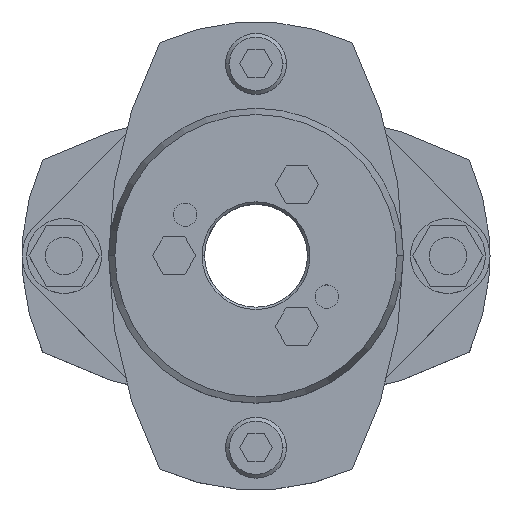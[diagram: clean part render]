
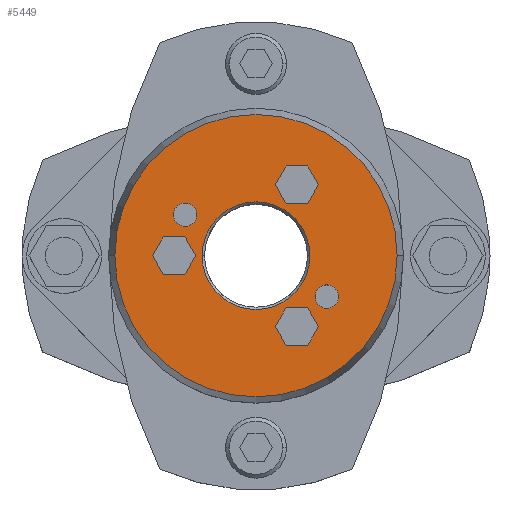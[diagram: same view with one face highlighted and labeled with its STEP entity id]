
A CAD part, top view. The second image highlights one B-rep face of the part: STEP entity #5449.
In plain terms, the highlighted planar face has unit normal (0, 0, 1).
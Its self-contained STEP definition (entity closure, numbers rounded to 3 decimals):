
#857=CARTESIAN_POINT('',(-11.5,0.,42.0));
#858=VERTEX_POINT('',#857);
#874=CARTESIAN_POINT('',(11.5,0.,42.0));
#875=VERTEX_POINT('',#874);
#882=CARTESIAN_POINT('',(0.,0.,42.0));
#883=DIRECTION('',(0.0,0.0,1.0));
#884=DIRECTION('',(-1.0,0.0,0.0));
#885=AXIS2_PLACEMENT_3D('',#882,#883,#884);
#886=CIRCLE('',#885,11.5);
#887=EDGE_CURVE('',#875,#858,#886,.T.);
#1045=CARTESIAN_POINT('',(30.16,0.,42.0));
#1046=VERTEX_POINT('',#1045);
#1053=CARTESIAN_POINT('',(-30.16,0.,42.0));
#1054=VERTEX_POINT('',#1053);
#1055=CARTESIAN_POINT('',(0.,0.,42.0));
#1056=DIRECTION('',(0.0,0.0,-1.0));
#1057=DIRECTION('',(1.0,0.0,0.0));
#1058=AXIS2_PLACEMENT_3D('',#1055,#1056,#1057);
#1059=CIRCLE('',#1058,30.16);
#1060=EDGE_CURVE('',#1046,#1054,#1059,.T.);
#1155=CARTESIAN_POINT('',(-17.655,8.75,42.0));
#1156=VERTEX_POINT('',#1155);
#1172=CARTESIAN_POINT('',(-12.655,8.75,42.0));
#1173=VERTEX_POINT('',#1172);
#1180=CARTESIAN_POINT('',(-15.155,8.75,42.0));
#1181=DIRECTION('',(0.0,0.0,-1.0));
#1182=DIRECTION('',(-1.0,0.0,0.0));
#1183=AXIS2_PLACEMENT_3D('',#1180,#1181,#1182);
#1184=CIRCLE('',#1183,2.5);
#1185=EDGE_CURVE('',#1156,#1173,#1184,.T.);
#1197=CARTESIAN_POINT('',(12.655,-8.75,42.0));
#1198=VERTEX_POINT('',#1197);
#1214=CARTESIAN_POINT('',(17.655,-8.75,42.0));
#1215=VERTEX_POINT('',#1214);
#1222=CARTESIAN_POINT('',(15.155,-8.75,42.0));
#1223=DIRECTION('',(0.0,0.0,-1.0));
#1224=DIRECTION('',(-1.0,0.0,0.0));
#1225=AXIS2_PLACEMENT_3D('',#1222,#1223,#1224);
#1226=CIRCLE('',#1225,2.5);
#1227=EDGE_CURVE('',#1198,#1215,#1226,.T.);
#4476=CARTESIAN_POINT('',(15.155,-8.75,42.0));
#4477=DIRECTION('',(0.0,0.0,-1.0));
#4478=DIRECTION('',(-1.0,0.0,0.0));
#4479=AXIS2_PLACEMENT_3D('',#4476,#4477,#4478);
#4480=CIRCLE('',#4479,2.5);
#4481=EDGE_CURVE('',#1215,#1198,#4480,.T.);
#4510=CARTESIAN_POINT('',(-15.155,8.75,42.0));
#4511=DIRECTION('',(0.0,0.0,-1.0));
#4512=DIRECTION('',(-1.0,0.0,0.0));
#4513=AXIS2_PLACEMENT_3D('',#4510,#4511,#4512);
#4514=CIRCLE('',#4513,2.5);
#4515=EDGE_CURVE('',#1173,#1156,#4514,.T.);
#4553=CARTESIAN_POINT('',(4.131,-15.155,42.0));
#4554=VERTEX_POINT('',#4553);
#4561=CARTESIAN_POINT('',(6.441,-19.155,42.0));
#4562=VERTEX_POINT('',#4561);
#4563=CARTESIAN_POINT('',(6.441,-19.155,42.0));
#4564=DIRECTION('',(-0.5,0.866,0.0));
#4565=VECTOR('',#4564,4.619);
#4566=LINE('',#4563,#4565);
#4567=EDGE_CURVE('',#4562,#4554,#4566,.T.);
#4591=CARTESIAN_POINT('',(6.441,-11.155,42.0));
#4592=VERTEX_POINT('',#4591);
#4599=CARTESIAN_POINT('',(4.131,-15.155,42.0));
#4600=DIRECTION('',(0.5,0.866,0.0));
#4601=VECTOR('',#4600,4.619);
#4602=LINE('',#4599,#4601);
#4603=EDGE_CURVE('',#4554,#4592,#4602,.T.);
#4622=CARTESIAN_POINT('',(11.059,-11.155,42.0));
#4623=VERTEX_POINT('',#4622);
#4630=CARTESIAN_POINT('',(6.441,-11.155,42.0));
#4631=DIRECTION('',(1.0,0.0,0.0));
#4632=VECTOR('',#4631,4.619);
#4633=LINE('',#4630,#4632);
#4634=EDGE_CURVE('',#4592,#4623,#4633,.T.);
#4653=CARTESIAN_POINT('',(13.369,-15.155,42.0));
#4654=VERTEX_POINT('',#4653);
#4661=CARTESIAN_POINT('',(11.059,-11.155,42.0));
#4662=DIRECTION('',(0.5,-0.866,0.0));
#4663=VECTOR('',#4662,4.619);
#4664=LINE('',#4661,#4663);
#4665=EDGE_CURVE('',#4623,#4654,#4664,.T.);
#4684=CARTESIAN_POINT('',(11.059,-19.155,42.0));
#4685=VERTEX_POINT('',#4684);
#4692=CARTESIAN_POINT('',(13.369,-15.155,42.0));
#4693=DIRECTION('',(-0.5,-0.866,0.0));
#4694=VECTOR('',#4693,4.619);
#4695=LINE('',#4692,#4694);
#4696=EDGE_CURVE('',#4654,#4685,#4695,.T.);
#4714=CARTESIAN_POINT('',(11.059,-19.155,42.0));
#4715=DIRECTION('',(-1.0,0.0,0.0));
#4716=VECTOR('',#4715,4.619);
#4717=LINE('',#4714,#4716);
#4718=EDGE_CURVE('',#4685,#4562,#4717,.T.);
#4753=CARTESIAN_POINT('',(-22.119,0.,42.0));
#4754=VERTEX_POINT('',#4753);
#4761=CARTESIAN_POINT('',(-19.809,-4.,42.0));
#4762=VERTEX_POINT('',#4761);
#4763=CARTESIAN_POINT('',(-19.809,-4.,42.0));
#4764=DIRECTION('',(-0.5,0.866,0.0));
#4765=VECTOR('',#4764,4.619);
#4766=LINE('',#4763,#4765);
#4767=EDGE_CURVE('',#4762,#4754,#4766,.T.);
#4791=CARTESIAN_POINT('',(-19.809,4.,42.0));
#4792=VERTEX_POINT('',#4791);
#4799=CARTESIAN_POINT('',(-22.119,0.,42.0));
#4800=DIRECTION('',(0.5,0.866,0.0));
#4801=VECTOR('',#4800,4.619);
#4802=LINE('',#4799,#4801);
#4803=EDGE_CURVE('',#4754,#4792,#4802,.T.);
#4822=CARTESIAN_POINT('',(-15.191,4.,42.0));
#4823=VERTEX_POINT('',#4822);
#4830=CARTESIAN_POINT('',(-19.809,4.,42.0));
#4831=DIRECTION('',(1.0,0.0,0.0));
#4832=VECTOR('',#4831,4.619);
#4833=LINE('',#4830,#4832);
#4834=EDGE_CURVE('',#4792,#4823,#4833,.T.);
#4853=CARTESIAN_POINT('',(-12.881,0.,42.0));
#4854=VERTEX_POINT('',#4853);
#4861=CARTESIAN_POINT('',(-15.191,4.,42.0));
#4862=DIRECTION('',(0.5,-0.866,0.0));
#4863=VECTOR('',#4862,4.619);
#4864=LINE('',#4861,#4863);
#4865=EDGE_CURVE('',#4823,#4854,#4864,.T.);
#4884=CARTESIAN_POINT('',(-15.191,-4.,42.0));
#4885=VERTEX_POINT('',#4884);
#4892=CARTESIAN_POINT('',(-12.881,0.,42.0));
#4893=DIRECTION('',(-0.5,-0.866,0.0));
#4894=VECTOR('',#4893,4.619);
#4895=LINE('',#4892,#4894);
#4896=EDGE_CURVE('',#4854,#4885,#4895,.T.);
#4914=CARTESIAN_POINT('',(-15.191,-4.,42.0));
#4915=DIRECTION('',(-1.0,0.0,0.0));
#4916=VECTOR('',#4915,4.619);
#4917=LINE('',#4914,#4916);
#4918=EDGE_CURVE('',#4885,#4762,#4917,.T.);
#4953=CARTESIAN_POINT('',(4.131,15.155,42.0));
#4954=VERTEX_POINT('',#4953);
#4961=CARTESIAN_POINT('',(6.441,11.155,42.0));
#4962=VERTEX_POINT('',#4961);
#4963=CARTESIAN_POINT('',(6.441,11.155,42.0));
#4964=DIRECTION('',(-0.5,0.866,0.0));
#4965=VECTOR('',#4964,4.619);
#4966=LINE('',#4963,#4965);
#4967=EDGE_CURVE('',#4962,#4954,#4966,.T.);
#4991=CARTESIAN_POINT('',(6.441,19.155,42.0));
#4992=VERTEX_POINT('',#4991);
#4999=CARTESIAN_POINT('',(4.131,15.155,42.0));
#5000=DIRECTION('',(0.5,0.866,0.0));
#5001=VECTOR('',#5000,4.619);
#5002=LINE('',#4999,#5001);
#5003=EDGE_CURVE('',#4954,#4992,#5002,.T.);
#5022=CARTESIAN_POINT('',(11.059,19.155,42.0));
#5023=VERTEX_POINT('',#5022);
#5030=CARTESIAN_POINT('',(6.441,19.155,42.0));
#5031=DIRECTION('',(1.0,0.0,0.0));
#5032=VECTOR('',#5031,4.619);
#5033=LINE('',#5030,#5032);
#5034=EDGE_CURVE('',#4992,#5023,#5033,.T.);
#5053=CARTESIAN_POINT('',(13.369,15.155,42.0));
#5054=VERTEX_POINT('',#5053);
#5061=CARTESIAN_POINT('',(11.059,19.155,42.0));
#5062=DIRECTION('',(0.5,-0.866,0.0));
#5063=VECTOR('',#5062,4.619);
#5064=LINE('',#5061,#5063);
#5065=EDGE_CURVE('',#5023,#5054,#5064,.T.);
#5084=CARTESIAN_POINT('',(11.059,11.155,42.0));
#5085=VERTEX_POINT('',#5084);
#5092=CARTESIAN_POINT('',(13.369,15.155,42.0));
#5093=DIRECTION('',(-0.5,-0.866,0.0));
#5094=VECTOR('',#5093,4.619);
#5095=LINE('',#5092,#5094);
#5096=EDGE_CURVE('',#5054,#5085,#5095,.T.);
#5114=CARTESIAN_POINT('',(11.059,11.155,42.0));
#5115=DIRECTION('',(-1.0,0.0,0.0));
#5116=VECTOR('',#5115,4.619);
#5117=LINE('',#5114,#5116);
#5118=EDGE_CURVE('',#5085,#4962,#5117,.T.);
#5388=CARTESIAN_POINT('',(0.,0.,42.0));
#5389=DIRECTION('',(0.0,0.0,-1.0));
#5390=DIRECTION('',(1.0,0.0,0.0));
#5391=AXIS2_PLACEMENT_3D('',#5388,#5389,#5390);
#5392=CIRCLE('',#5391,30.16);
#5393=EDGE_CURVE('',#1054,#1046,#5392,.T.);
#5398=CARTESIAN_POINT('',(-2.864,0.,42.0));
#5399=DIRECTION('',(0.0,0.0,1.0));
#5400=DIRECTION('',(-1.0,0.0,0.0));
#5401=AXIS2_PLACEMENT_3D('',#5398,#5399,#5400);
#5402=PLANE('',#5401);
#5403=ORIENTED_EDGE('',*,*,#5393,.F.);
#5404=ORIENTED_EDGE('',*,*,#1060,.F.);
#5405=EDGE_LOOP('',(#5403,#5404));
#5406=FACE_OUTER_BOUND('',#5405,.T.);
#5407=ORIENTED_EDGE('',*,*,#1227,.T.);
#5408=ORIENTED_EDGE('',*,*,#4481,.T.);
#5409=EDGE_LOOP('',(#5407,#5408));
#5410=FACE_BOUND('',#5409,.T.);
#5411=ORIENTED_EDGE('',*,*,#1185,.T.);
#5412=ORIENTED_EDGE('',*,*,#4515,.T.);
#5413=EDGE_LOOP('',(#5411,#5412));
#5414=FACE_BOUND('',#5413,.T.);
#5415=ORIENTED_EDGE('',*,*,#4567,.T.);
#5416=ORIENTED_EDGE('',*,*,#4603,.T.);
#5417=ORIENTED_EDGE('',*,*,#4634,.T.);
#5418=ORIENTED_EDGE('',*,*,#4665,.T.);
#5419=ORIENTED_EDGE('',*,*,#4696,.T.);
#5420=ORIENTED_EDGE('',*,*,#4718,.T.);
#5421=EDGE_LOOP('',(#5415,#5416,#5417,#5418,#5419,#5420));
#5422=FACE_BOUND('',#5421,.T.);
#5423=ORIENTED_EDGE('',*,*,#4767,.T.);
#5424=ORIENTED_EDGE('',*,*,#4803,.T.);
#5425=ORIENTED_EDGE('',*,*,#4834,.T.);
#5426=ORIENTED_EDGE('',*,*,#4865,.T.);
#5427=ORIENTED_EDGE('',*,*,#4896,.T.);
#5428=ORIENTED_EDGE('',*,*,#4918,.T.);
#5429=EDGE_LOOP('',(#5423,#5424,#5425,#5426,#5427,#5428));
#5430=FACE_BOUND('',#5429,.T.);
#5431=ORIENTED_EDGE('',*,*,#4967,.T.);
#5432=ORIENTED_EDGE('',*,*,#5003,.T.);
#5433=ORIENTED_EDGE('',*,*,#5034,.T.);
#5434=ORIENTED_EDGE('',*,*,#5065,.T.);
#5435=ORIENTED_EDGE('',*,*,#5096,.T.);
#5436=ORIENTED_EDGE('',*,*,#5118,.T.);
#5437=EDGE_LOOP('',(#5431,#5432,#5433,#5434,#5435,#5436));
#5438=FACE_BOUND('',#5437,.T.);
#5439=ORIENTED_EDGE('',*,*,#887,.F.);
#5440=CARTESIAN_POINT('',(0.,0.,42.0));
#5441=DIRECTION('',(0.0,0.0,1.0));
#5442=DIRECTION('',(-1.0,0.0,0.0));
#5443=AXIS2_PLACEMENT_3D('',#5440,#5441,#5442);
#5444=CIRCLE('',#5443,11.5);
#5445=EDGE_CURVE('',#858,#875,#5444,.T.);
#5446=ORIENTED_EDGE('',*,*,#5445,.F.);
#5447=EDGE_LOOP('',(#5439,#5446));
#5448=FACE_BOUND('',#5447,.T.);
#5449=ADVANCED_FACE('',(#5406,#5410,#5414,#5422,#5430,#5438,#5448),#5402,.T.);
